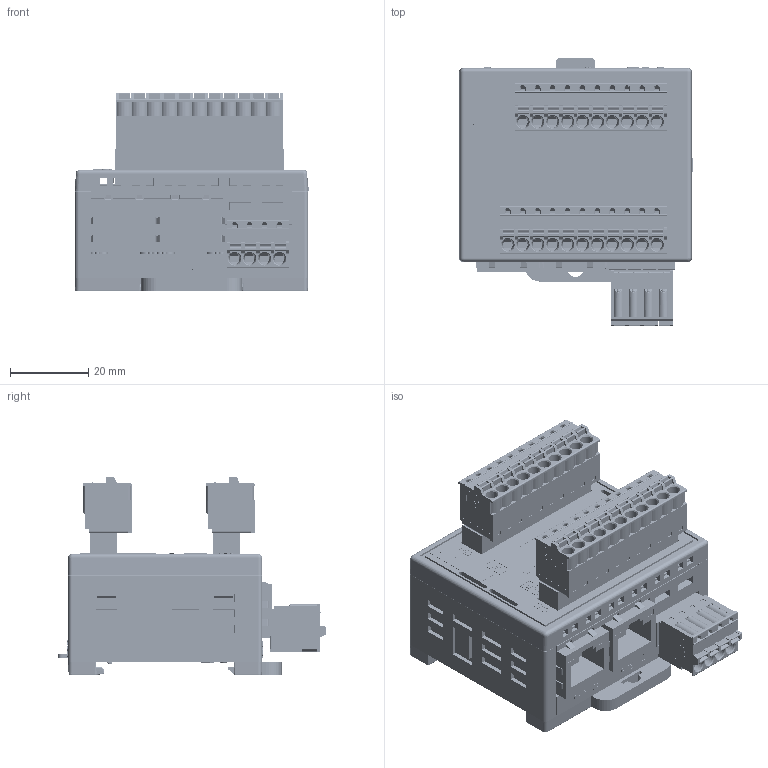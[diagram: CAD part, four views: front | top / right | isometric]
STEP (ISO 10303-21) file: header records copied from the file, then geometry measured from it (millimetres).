
FILE_DESCRIPTION((''),'2;1');
FILE_NAME('ECCBP88W','2026-05-11T14:38:56',('gijyu181'),(''),'CREO PARAMETRIC BY PTC INC, 2018050','CREO PARAMETRIC BY PTC INC, 2018050','');
FILE_SCHEMA(('CONFIG_CONTROL_DESIGN','SHAPE_APPEARANCE_LAYERS_GROUPS'));
Products named in the file (1): ECCBP88W
Bounding box: 59.75 x 68.55 x 50.7 mm (x, y, z)
Volume: 71056 mm3; surface area: 53367.2 mm2
Topology: 1 solids, 53 shells, 9783 faces, 27382 edges, 18002 vertices
Faces by surface type: plane 7107, cylinder 1601, extrusion 607, cone 274, sphere 94, torus 76, bspline 24
Entity records: 426037 total; most frequent: CARTESIAN_POINT 78596, ORIENTED_EDGE 53454, DIRECTION 46836, EDGE_CURVE 27368, VECTOR 22134, PRESENTATION_STYLE_ASSIGNMENT 21738, LINE 21527, STYLED_ITEM 18512
